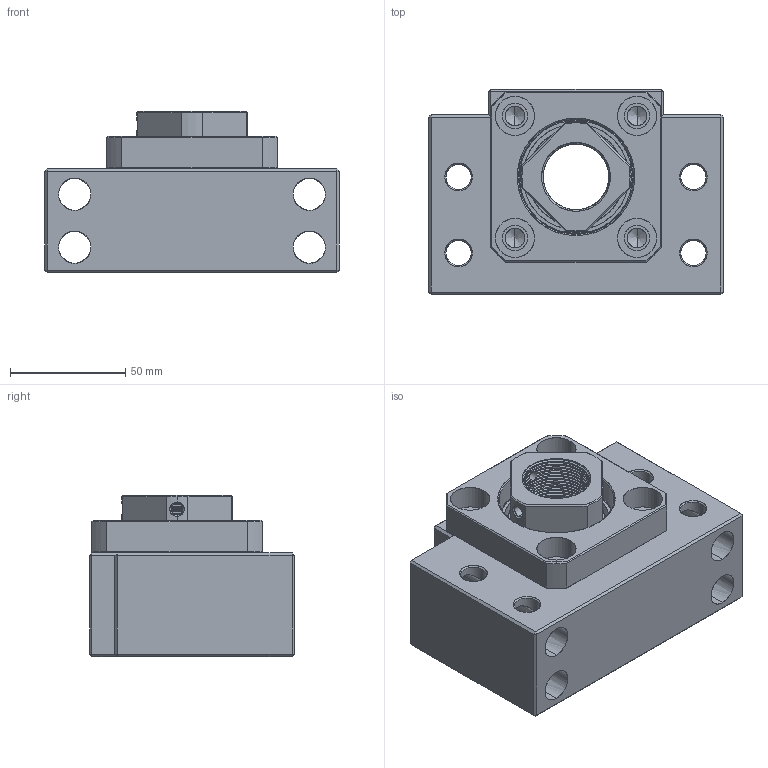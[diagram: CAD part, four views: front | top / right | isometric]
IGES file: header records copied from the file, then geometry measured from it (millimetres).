
Start section: SolidWorks IGES file using analytic representation for surfaces
Global section: file name: Z:\Accessories\_GC_!!!\SYK\Support unit\BK\BK30.IGS; native system: SolidWorks 2015; preprocessor: SolidWorks 2015; author: User; date: 170504.144826; units: millimetre
Bounding box: 128 x 89 x 70 mm (x, y, z)
Surface area: 130539.7 mm2 (no closed solid volume)
Topology: 0 solids, 0 shells, 499 faces, 8831 edges, 8715 vertices
Faces by surface type: bspline 261, revolution 238
